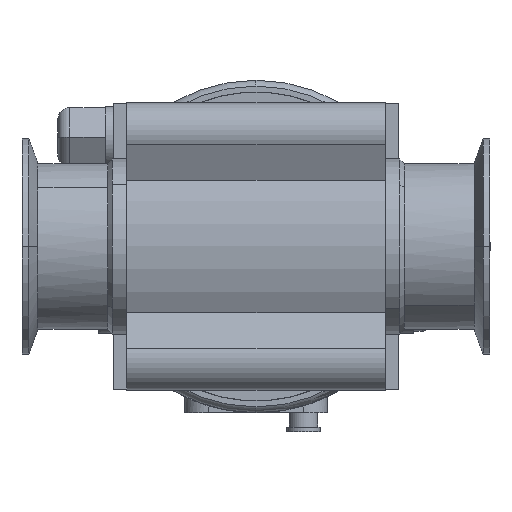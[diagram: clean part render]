
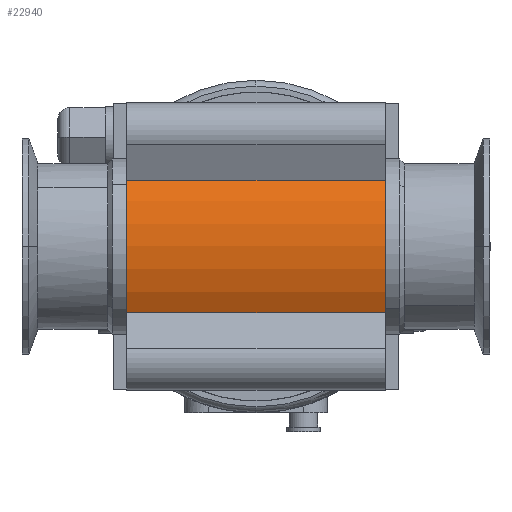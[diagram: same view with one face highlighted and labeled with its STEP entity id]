
A CAD part, front view. The second image highlights one B-rep face of the part: STEP entity #22940.
In plain terms, the highlighted cylindrical face has radius 59.5 mm (diameter 119 mm), a partial arc.
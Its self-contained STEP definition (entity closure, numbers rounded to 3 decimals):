
#17420=CARTESIAN_POINT('',(-52.5,-113.3,0.));
#17430=DIRECTION('',(-1.,0.,0.));
#17440=DIRECTION('',(0.,-0.707,
0.707));
#17450=AXIS2_PLACEMENT_3D('',#17420,#17430,#17440);
#17460=CYLINDRICAL_SURFACE('',#17450,59.5);
#17910=CARTESIAN_POINT('',(44.5,-113.3,0.));
#17920=DIRECTION('',(1.,0.,0.));
#17930=DIRECTION('',(0.,-0.707,
-0.707));
#17940=AXIS2_PLACEMENT_3D('',#17910,#17920,#17930);
#17950=CIRCLE('',#17940,59.5);
#18100=CARTESIAN_POINT('',(-64.5,-113.3,0.));
#18110=DIRECTION('',(-1.,0.,0.));
#18120=DIRECTION('',(0.,-0.707,
0.707));
#18130=AXIS2_PLACEMENT_3D('',#18100,#18110,#18120);
#18140=CIRCLE('',#18130,59.5);
#19660=CARTESIAN_POINT('',(44.5,-165.806,
-27.989));
#19670=VERTEX_POINT('',#19660);
#19700=CARTESIAN_POINT('',(44.5,-165.806,
27.989));
#19710=VERTEX_POINT('',#19700);
#19720=EDGE_CURVE('',#19710,#19670,#17950,.T.);
#22730=ORIENTED_EDGE('',*,*,#19720,.F.);
#22740=CARTESIAN_POINT('',(-52.5,-165.806,
-27.989));
#22750=DIRECTION('',(-1.,0.,0.));
#22760=VECTOR('',#22750,1.);
#22770=LINE('',#22740,#22760);
#22780=CARTESIAN_POINT('',(-64.5,-165.806,
-27.989));
#22790=VERTEX_POINT('',#22780);
#22800=EDGE_CURVE('',#19670,#22790,#22770,.T.);
#22810=ORIENTED_EDGE('',*,*,#22800,.F.);
#22820=CARTESIAN_POINT('',(-64.5,-165.806,
27.989));
#22830=VERTEX_POINT('',#22820);
#22840=EDGE_CURVE('',#22790,#22830,#18140,.T.);
#22850=ORIENTED_EDGE('',*,*,#22840,.F.);
#22860=CARTESIAN_POINT('',(32.5,-165.806,
27.989));
#22870=DIRECTION('',(1.,0.,0.));
#22880=VECTOR('',#22870,1.);
#22890=LINE('',#22860,#22880);
#22900=EDGE_CURVE('',#22830,#19710,#22890,.T.);
#22910=ORIENTED_EDGE('',*,*,#22900,.F.);
#22920=EDGE_LOOP('',(#22910,#22850,#22810,#22730));
#22930=FACE_OUTER_BOUND('',#22920,.T.);
#22940=ADVANCED_FACE('',(#22930),#17460,.T.);
